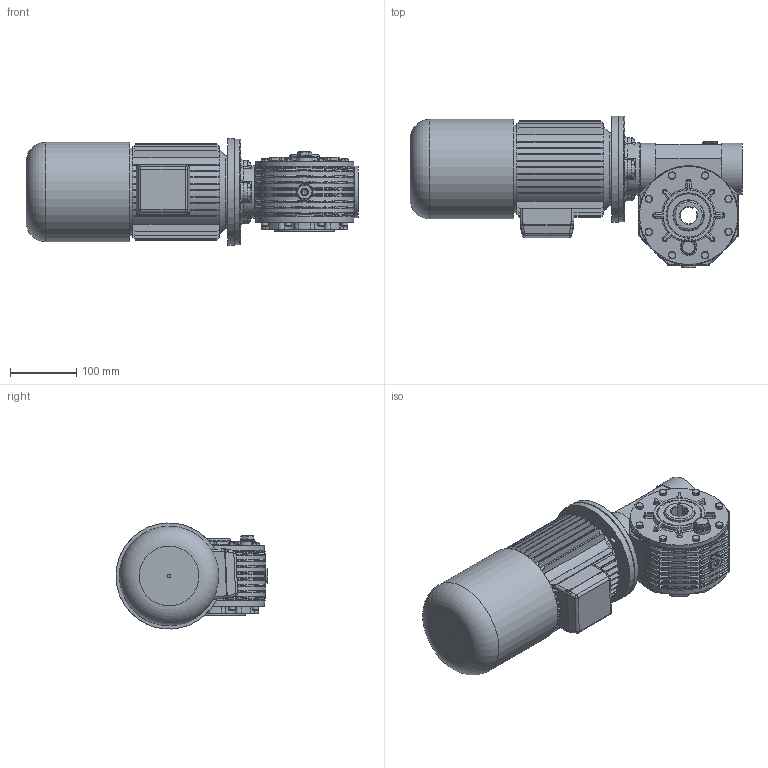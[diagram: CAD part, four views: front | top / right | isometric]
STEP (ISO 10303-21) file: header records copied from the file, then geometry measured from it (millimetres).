
FILE_DESCRIPTION((''),'2;1');
FILE_NAME('Y:\Archivi Inventor\Prog_01\GRAND_30\Figurini\MRV30 sito\71 Autofrenante\MRV30_FP2_71_B5.stp','2013-02-06T09:32:51',('tech3'),(''),'Autodesk Inventor 2013','Autodesk Inventor 2013','');
FILE_SCHEMA(('AUTOMOTIVE_DESIGN { 1 0 10303 214 1 1 1 1 }'));
Length unit declared in the file: millimetre
Products named in the file (18): MRV30_71_B5; MRV30; 0103001-A2 fig; 0103008.A1 fig F=25; PARAOLIO 45x65x10; RCA_52x7; Guarnizione 3_8 GAS; Tappo 3_8 GAS_esagn_incsst; 0103029; DIN EN 24017 M6 x 20; 0103028; 0103002-A0 fig; DIN EN ISO 4762 M6 x 20; Tappo3_8 GAS; 0103004.A2 fig; UNI 5931 M 8 x  25; 0103006; motori B5 brake 71
Assembly tree (39 placements, depth 3):
  MRV30_71_B5
    MRV30
      0103001-A2 fig
      0103008.A1 fig F=25
      PARAOLIO 45x65x10  x2
      RCA_52x7
      Guarnizione 3_8 GAS  x3
      Tappo 3_8 GAS_esagn_incsst  x2
      0103029  x2
      DIN EN 24017 M6 x 20  x8
      0103028
      0103002-A0 fig
      DIN EN ISO 4762 M6 x 20  x8
      Tappo3_8 GAS
      0103004.A2 fig
      UNI 5931 M 8 x  25  x4
    0103006
    motori B5 brake 71
Bounding box: 500.4 x 229 x 159.87 mm (x, y, z)
Volume: 4963456.2 mm3; surface area: 795420.4 mm2
Topology: 39 solids, 42 shells, 2090 faces, 5049 edges, 3022 vertices
Faces by surface type: plane 912, cylinder 697, torus 181, bspline 158, cone 118, sphere 24
Full cylindrical faces by diameter (mm): 2 x2, 4.917 x16, 5 x1, 6 x16, 6.5 x32, 6.647 x8, 8 x6, 8.5 x8, 8.88 x8, 9.5 x12, 10 x8, 11 x8, 13 x4, 13.046 x1, 14 x1, 14.95 x3, 16.3 x3, 16.5 x2, 22 x6, 25 x1, 43 x1, 45 x6, 45.76 x1, 50.881 x2, 52 x6, 55 x1, 60.5 x2, 65 x4, 77 x1, 78 x2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
Entity records: 59683 total; most frequent: CARTESIAN_POINT 18855, DIRECTION 8640, ORIENTED_EDGE 7978, EDGE_CURVE 3989, AXIS2_PLACEMENT_3D 3422, VERTEX_POINT 2534, EDGE_LOOP 2124, VECTOR 1796
